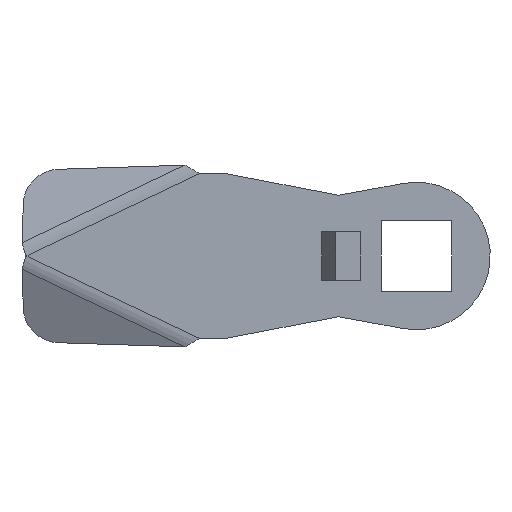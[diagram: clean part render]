
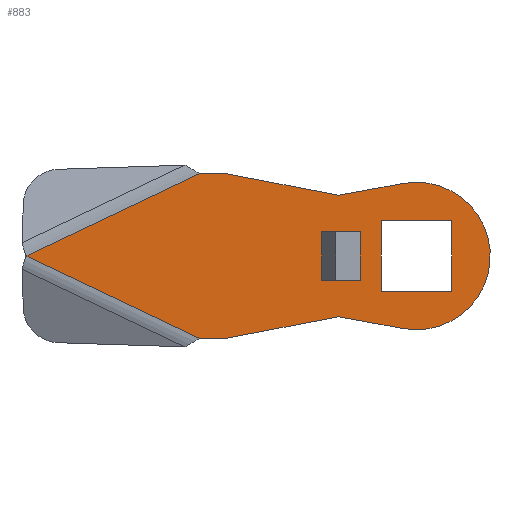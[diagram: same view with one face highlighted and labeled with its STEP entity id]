
A CAD part, front view. The second image highlights one B-rep face of the part: STEP entity #883.
In plain terms, the highlighted planar face has unit normal (0, -1, 0).
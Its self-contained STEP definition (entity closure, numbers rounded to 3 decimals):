
#283=CARTESIAN_POINT('',(-45.0,-4.0,0.0));
#284=VERTEX_POINT('',#283);
#414=CARTESIAN_POINT('',(-25.0,-4.0,9.5));
#415=VERTEX_POINT('',#414);
#439=CARTESIAN_POINT('',(-22.0,-4.0,9.5));
#440=VERTEX_POINT('',#439);
#441=CARTESIAN_POINT('',(-25.0,-4.0,9.5));
#442=DIRECTION('',(1.0,0.0,0.0));
#443=VECTOR('',#442,3.0);
#444=LINE('',#441,#443);
#445=EDGE_CURVE('',#415,#440,#444,.T.);
#464=CARTESIAN_POINT('',(-9.0,-4.0,7.));
#465=VERTEX_POINT('',#464);
#466=CARTESIAN_POINT('',(-22.0,-4.0,9.5));
#467=DIRECTION('',(0.982,0.0,-0.189));
#468=VECTOR('',#467,13.238);
#469=LINE('',#466,#468);
#470=EDGE_CURVE('',#440,#465,#469,.T.);
#488=CARTESIAN_POINT('',(-1.524,-4.0,8.362));
#489=VERTEX_POINT('',#488);
#490=CARTESIAN_POINT('',(-9.0,-4.0,7.));
#491=DIRECTION('',(0.984,0.0,0.179));
#492=VECTOR('',#491,7.599);
#493=LINE('',#490,#492);
#494=EDGE_CURVE('',#465,#489,#493,.T.);
#512=CARTESIAN_POINT('',(-1.524,-4.0,-8.362));
#513=VERTEX_POINT('',#512);
#514=CARTESIAN_POINT('',(0.0,-4.0,0.0));
#515=DIRECTION('',(0.0,1.,0.0));
#516=DIRECTION('',(-0.179,0.0,0.984));
#517=AXIS2_PLACEMENT_3D('',#514,#515,#516);
#518=CIRCLE('',#517,8.5);
#519=EDGE_CURVE('',#489,#513,#518,.T.);
#537=CARTESIAN_POINT('',(-9.0,-4.0,-7.));
#538=VERTEX_POINT('',#537);
#539=CARTESIAN_POINT('',(-1.524,-4.0,-8.362));
#540=DIRECTION('',(-0.984,0.0,0.179));
#541=VECTOR('',#540,7.599);
#542=LINE('',#539,#541);
#543=EDGE_CURVE('',#513,#538,#542,.T.);
#561=CARTESIAN_POINT('',(-22.0,-4.0,-9.5));
#562=VERTEX_POINT('',#561);
#563=CARTESIAN_POINT('',(-9.0,-4.0,-7.));
#564=DIRECTION('',(-0.982,0.0,-0.189));
#565=VECTOR('',#564,13.238);
#566=LINE('',#563,#565);
#567=EDGE_CURVE('',#538,#562,#566,.T.);
#583=CARTESIAN_POINT('',(-25.0,-4.0,-9.5));
#584=VERTEX_POINT('',#583);
#593=CARTESIAN_POINT('',(-22.0,-4.0,-9.5));
#594=DIRECTION('',(-1.0,0.0,0.0));
#595=VECTOR('',#594,3.0);
#596=LINE('',#593,#595);
#597=EDGE_CURVE('',#562,#584,#596,.T.);
#785=CARTESIAN_POINT('',(-45.0,-4.0,0.0));
#786=DIRECTION('',(0.903,0.0,-0.429));
#787=VECTOR('',#786,22.142);
#788=LINE('',#785,#787);
#789=EDGE_CURVE('',#284,#584,#788,.T.);
#794=CARTESIAN_POINT('',(0.0,-4.0,0.0));
#795=DIRECTION('',(0.0,1.0,0.0));
#796=DIRECTION('',(0.0,0.0,1.0));
#797=AXIS2_PLACEMENT_3D('',#794,#795,#796);
#798=PLANE('',#797);
#799=CARTESIAN_POINT('',(-45.0,-4.0,0.0));
#800=DIRECTION('',(0.903,0.0,0.429));
#801=VECTOR('',#800,22.142);
#802=LINE('',#799,#801);
#803=EDGE_CURVE('',#284,#415,#802,.T.);
#804=ORIENTED_EDGE('',*,*,#803,.F.);
#805=ORIENTED_EDGE('',*,*,#789,.T.);
#806=ORIENTED_EDGE('',*,*,#597,.F.);
#807=ORIENTED_EDGE('',*,*,#567,.F.);
#808=ORIENTED_EDGE('',*,*,#543,.F.);
#809=ORIENTED_EDGE('',*,*,#519,.F.);
#810=ORIENTED_EDGE('',*,*,#494,.F.);
#811=ORIENTED_EDGE('',*,*,#470,.F.);
#812=ORIENTED_EDGE('',*,*,#445,.F.);
#813=EDGE_LOOP('',(#804,#805,#806,#807,#808,#809,#810,#811,#812));
#814=FACE_OUTER_BOUND('',#813,.T.);
#815=CARTESIAN_POINT('',(-4.05,-4.0,-4.05));
#816=VERTEX_POINT('',#815);
#817=CARTESIAN_POINT('',(4.05,-4.0,-4.05));
#818=VERTEX_POINT('',#817);
#819=CARTESIAN_POINT('',(-4.05,-4.0,-4.05));
#820=DIRECTION('',(1.0,0.0,0.0));
#821=VECTOR('',#820,8.1);
#822=LINE('',#819,#821);
#823=EDGE_CURVE('',#816,#818,#822,.T.);
#824=ORIENTED_EDGE('',*,*,#823,.F.);
#825=CARTESIAN_POINT('',(-4.05,-4.0,4.05));
#826=VERTEX_POINT('',#825);
#827=CARTESIAN_POINT('',(-4.05,-4.0,4.05));
#828=DIRECTION('',(0.0,0.0,-1.0));
#829=VECTOR('',#828,8.1);
#830=LINE('',#827,#829);
#831=EDGE_CURVE('',#826,#816,#830,.T.);
#832=ORIENTED_EDGE('',*,*,#831,.F.);
#833=CARTESIAN_POINT('',(4.05,-4.0,4.05));
#834=VERTEX_POINT('',#833);
#835=CARTESIAN_POINT('',(4.05,-4.0,4.05));
#836=DIRECTION('',(-1.0,0.0,0.0));
#837=VECTOR('',#836,8.1);
#838=LINE('',#835,#837);
#839=EDGE_CURVE('',#834,#826,#838,.T.);
#840=ORIENTED_EDGE('',*,*,#839,.F.);
#841=CARTESIAN_POINT('',(4.05,-4.0,-4.05));
#842=DIRECTION('',(0.0,0.0,1.0));
#843=VECTOR('',#842,8.1);
#844=LINE('',#841,#843);
#845=EDGE_CURVE('',#818,#834,#844,.T.);
#846=ORIENTED_EDGE('',*,*,#845,.F.);
#847=EDGE_LOOP('',(#824,#832,#840,#846));
#848=FACE_BOUND('',#847,.T.);
#849=CARTESIAN_POINT('',(-6.5,-4.0,-2.8));
#850=VERTEX_POINT('',#849);
#851=CARTESIAN_POINT('',(-10.9,-4.0,-2.8));
#852=VERTEX_POINT('',#851);
#853=CARTESIAN_POINT('',(-6.5,-4.0,-2.8));
#854=DIRECTION('',(-1.0,0.0,0.0));
#855=VECTOR('',#854,4.4);
#856=LINE('',#853,#855);
#857=EDGE_CURVE('',#850,#852,#856,.T.);
#858=ORIENTED_EDGE('',*,*,#857,.T.);
#859=CARTESIAN_POINT('',(-10.9,-4.0,2.8));
#860=VERTEX_POINT('',#859);
#861=CARTESIAN_POINT('',(-10.9,-4.0,-2.8));
#862=DIRECTION('',(0.0,0.0,1.0));
#863=VECTOR('',#862,5.6);
#864=LINE('',#861,#863);
#865=EDGE_CURVE('',#852,#860,#864,.T.);
#866=ORIENTED_EDGE('',*,*,#865,.T.);
#867=CARTESIAN_POINT('',(-6.5,-4.0,2.8));
#868=VERTEX_POINT('',#867);
#869=CARTESIAN_POINT('',(-10.9,-4.0,2.8));
#870=DIRECTION('',(1.0,0.0,0.0));
#871=VECTOR('',#870,4.4);
#872=LINE('',#869,#871);
#873=EDGE_CURVE('',#860,#868,#872,.T.);
#874=ORIENTED_EDGE('',*,*,#873,.T.);
#875=CARTESIAN_POINT('',(-6.5,-4.0,2.8));
#876=DIRECTION('',(0.0,0.0,-1.0));
#877=VECTOR('',#876,5.6);
#878=LINE('',#875,#877);
#879=EDGE_CURVE('',#868,#850,#878,.T.);
#880=ORIENTED_EDGE('',*,*,#879,.T.);
#881=EDGE_LOOP('',(#858,#866,#874,#880));
#882=FACE_BOUND('',#881,.T.);
#883=ADVANCED_FACE('',(#814,#848,#882),#798,.F.);
